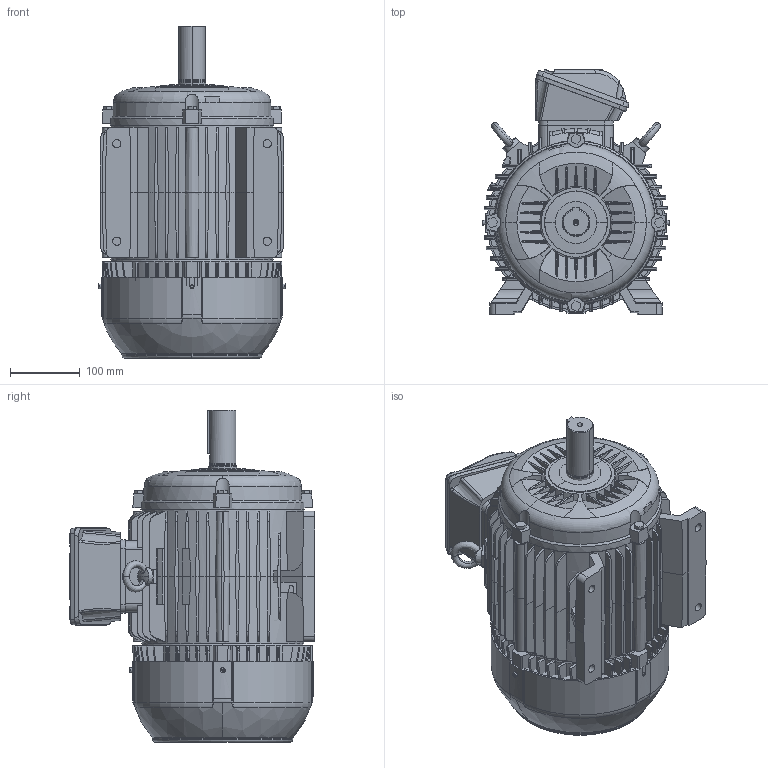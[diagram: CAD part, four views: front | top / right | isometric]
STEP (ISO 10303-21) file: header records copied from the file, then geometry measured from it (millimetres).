
FILE_DESCRIPTION (( 'STEP AP203' ), '1' );
FILE_NAME ('L132S_TOP.STEP', '2016-09-20T12:20:54', ( 'support' ), ( 'Microsoft' ), 'SwSTEP 2.0', 'SolidWorks 2016', '' );
FILE_SCHEMA (( 'CONFIG_CONTROL_DESIGN' ));
Length unit declared in the file: millimetre
Products named in the file (1): L132S_TOP
Bounding box: 267.8 x 352.15 x 476.9 mm (x, y, z)
Volume: 21945746.3 mm3; surface area: 1148699.6 mm2
Topology: 17 solids, 17 shells, 3418 faces, 8609 edges, 5474 vertices
Faces by surface type: plane 2231, cylinder 483, bspline 437, cone 210, torus 43, sphere 14
Entity records: 115807 total; most frequent: CARTESIAN_POINT 39379, ORIENTED_EDGE 17174, DIRECTION 13780, EDGE_CURVE 8587, VERTEX_POINT 5474, LINE 5306, VECTOR 5306, AXIS2_PLACEMENT_3D 4237
